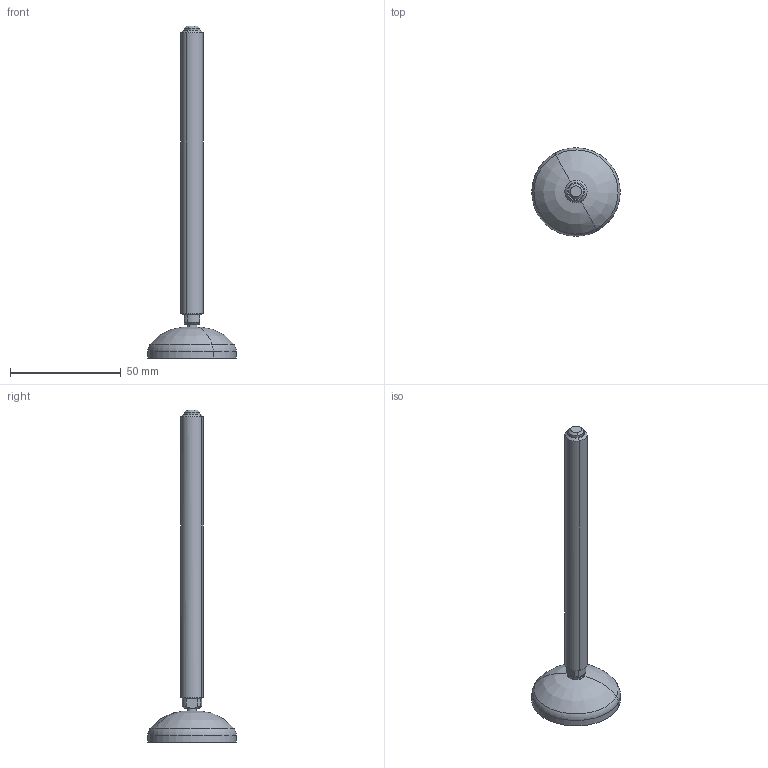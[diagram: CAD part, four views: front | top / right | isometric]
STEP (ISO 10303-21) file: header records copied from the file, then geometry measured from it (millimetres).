
FILE_DESCRIPTION(('STEP AP214'),'1');
FILE_NAME('Parte0','2017-03-31T13:14:21',('dentellad'),(' '),'Spatial InterOp 3D',' ',' ');
FILE_SCHEMA(('automotive_design'));
Length unit declared in the file: millimetre
Products named in the file (1): 1
Bounding box: 39.99 x 39.99 x 150.08 mm (x, y, z)
Volume: 23189.3 mm3; surface area: 7759.5 mm2
Topology: 1 solids, 1 shells, 42 faces, 89 edges, 52 vertices
Faces by surface type: cylinder 16, cone 9, plane 7, torus 6, sphere 2, revolution 2
Entity records: 1969 total; most frequent: DIRECTION 229, CARTESIAN_POINT 222, ORIENTED_EDGE 178, STYLED_ITEM 131, PRESENTATION_STYLE_ASSIGNMENT 131, COLOUR_RGB 131, AXIS2_PLACEMENT_3D 99, EDGE_CURVE 89
